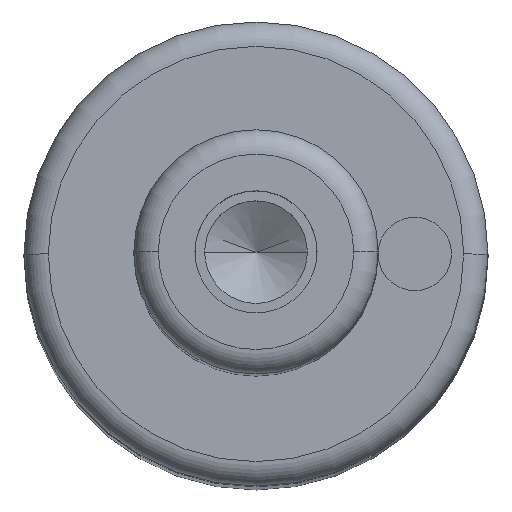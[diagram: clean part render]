
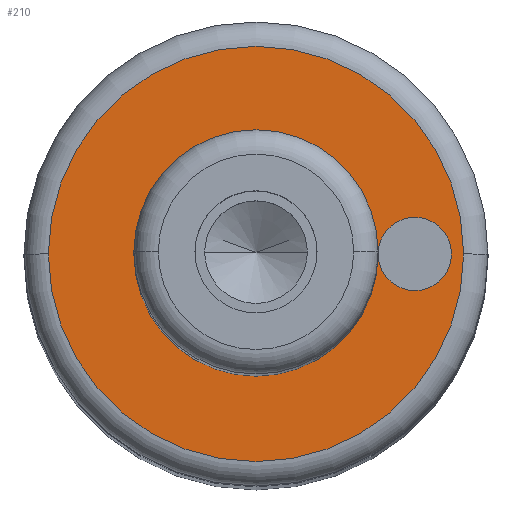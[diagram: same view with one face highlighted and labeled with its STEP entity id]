
A CAD part, top view. The second image highlights one B-rep face of the part: STEP entity #210.
In plain terms, the highlighted planar face has unit normal (0, 0, 1).
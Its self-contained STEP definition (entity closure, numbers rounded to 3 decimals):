
#99=PLANE('',#660);
#107=FACE_BOUND('',#285,.T.);
#108=FACE_BOUND('',#286,.T.);
#109=FACE_BOUND('',#287,.T.);
#210=ADVANCED_FACE('',(#107,#108,#109),#99,.T.);
#285=EDGE_LOOP('',(#395,#396));
#286=EDGE_LOOP('',(#397,#398));
#287=EDGE_LOOP('',(#399,#400));
#395=ORIENTED_EDGE('',*,*,#500,.F.);
#396=ORIENTED_EDGE('',*,*,#501,.F.);
#397=ORIENTED_EDGE('',*,*,#533,.F.);
#398=ORIENTED_EDGE('',*,*,#534,.F.);
#399=ORIENTED_EDGE('',*,*,#496,.T.);
#400=ORIENTED_EDGE('',*,*,#494,.T.);
#447=VERTEX_POINT('',#894);
#448=VERTEX_POINT('',#896);
#449=VERTEX_POINT('',#902);
#452=VERTEX_POINT('',#907);
#470=VERTEX_POINT('',#977);
#471=VERTEX_POINT('',#978);
#494=EDGE_CURVE('',#448,#447,#561,.T.);
#496=EDGE_CURVE('',#447,#448,#562,.T.);
#500=EDGE_CURVE('',#452,#449,#566,.T.);
#501=EDGE_CURVE('',#449,#452,#567,.T.);
#533=EDGE_CURVE('',#470,#471,#587,.T.);
#534=EDGE_CURVE('',#471,#470,#588,.T.);
#561=CIRCLE('',#612,5.);
#562=CIRCLE('',#614,5.);
#566=CIRCLE('',#619,8.5);
#567=CIRCLE('',#621,8.5);
#587=CIRCLE('',#658,1.5);
#588=CIRCLE('',#659,1.5);
#612=AXIS2_PLACEMENT_3D('',#895,#711,#712);
#614=AXIS2_PLACEMENT_3D('',#899,#716,#717);
#619=AXIS2_PLACEMENT_3D('',#908,#726,#727);
#621=AXIS2_PLACEMENT_3D('',#910,#730,#731);
#658=AXIS2_PLACEMENT_3D('',#976,#816,#817);
#659=AXIS2_PLACEMENT_3D('',#979,#818,#819);
#660=AXIS2_PLACEMENT_3D('',#980,#820,#821);
#711=DIRECTION('',(0.,0.,-1.));
#712=DIRECTION('',(-1.,0.,0.));
#716=DIRECTION('',(0.,0.,-1.));
#717=DIRECTION('',(-1.,0.,0.));
#726=DIRECTION('',(0.,0.,-1.));
#727=DIRECTION('',(-1.,0.,0.));
#730=DIRECTION('',(0.,0.,-1.));
#731=DIRECTION('',(-1.,0.,0.));
#816=DIRECTION('',(0.,0.,1.));
#817=DIRECTION('',(1.,0.,0.));
#818=DIRECTION('',(0.,0.,1.));
#819=DIRECTION('',(1.,0.,0.));
#820=DIRECTION('',(0.,0.,1.));
#821=DIRECTION('',(0.,-1.,0.));
#894=CARTESIAN_POINT('',(-5.,0.,94.));
#895=CARTESIAN_POINT('',(0.,0.,94.));
#896=CARTESIAN_POINT('',(5.,0.,94.));
#899=CARTESIAN_POINT('',(0.,0.,94.));
#902=CARTESIAN_POINT('',(-8.5,0.,94.));
#907=CARTESIAN_POINT('',(8.5,0.,94.));
#908=CARTESIAN_POINT('',(0.,0.,94.));
#910=CARTESIAN_POINT('',(0.,0.,94.));
#976=CARTESIAN_POINT('',(6.5,0.,94.));
#977=CARTESIAN_POINT('',(5.,0.,94.));
#978=CARTESIAN_POINT('',(8.,0.,94.));
#979=CARTESIAN_POINT('',(6.5,0.,94.));
#980=CARTESIAN_POINT('',(0.,0.,94.));
